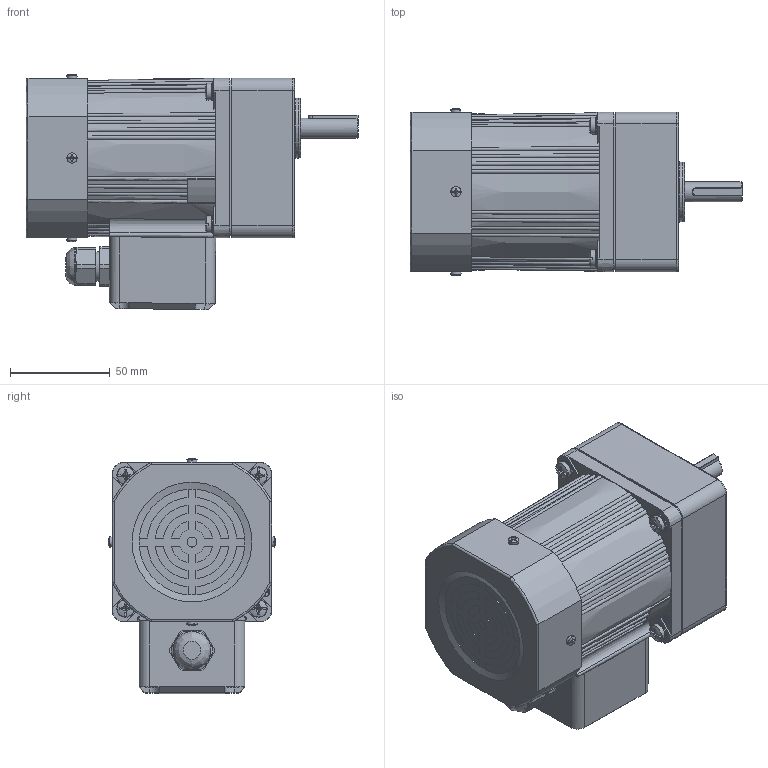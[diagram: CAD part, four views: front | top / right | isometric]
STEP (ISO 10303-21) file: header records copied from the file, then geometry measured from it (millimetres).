
FILE_DESCRIPTION(/* description */ (''),/* implementation_level */ '2;1');
FILE_NAME(/* name */ '4RK25-30GNC·TF-4GN3-20K-C·10L常规接线盒.stp',/* time_stamp */ '2025-04-13T14:20:36+08:00',/* author */ (''),/* organization */ (''),/* preprocessor_version */ 'ST-DEVELOPER v18.102',/* originating_system */ 'SIEMENS PLM Software NX 2027',/* authorisation */ '');
FILE_SCHEMA (('AP203_CONFIGURATION_CONTROLLED_3D_DESIGN_OF_MECHANICAL_PARTS_AND_ASSEMBLIES_MIM_LF { 1 0 10303 403 2 1 2}'));
Length unit declared in the file: millimetre
Products named in the file (1): 4RK25-30CC·F-4GN3-20K-C·10L_stp_M066263C6523mted
Bounding box: 166.3 x 83.8 x 117.79 mm (x, y, z)
Volume: 775545.9 mm3; surface area: 106855.5 mm2
Topology: 9 solids, 9 shells, 985 faces, 2684 edges, 1749 vertices
Faces by surface type: plane 357, bspline 290, cylinder 194, cone 74, torus 44, sphere 20, revolution 6
Full cylindrical faces by diameter (mm): 4 x1, 4.2 x4, 4.4 x1, 4.5 x4, 4.6 x4, 5 x6, 5.1 x4, 5.3 x4, 5.849 x1, 6 x4, 6.5 x4, 8.5 x4, 9 x5, 10 x1, 10.5 x1, 12 x1, 15 x2, 16 x1, 18 x1, 19 x2, 26 x1, 30 x1, 56 x1, 67 x1, 75 x2, 77.5 x1
Entity records: 37028 total; most frequent: CARTESIAN_POINT 15405, ORIENTED_EDGE 5010, DIRECTION 3249, EDGE_CURVE 2505, VERTEX_POINT 1682, AXIS2_PLACEMENT_3D 1253, EDGE_LOOP 1225, B_SPLINE_CURVE_WITH_KNOTS 1211
